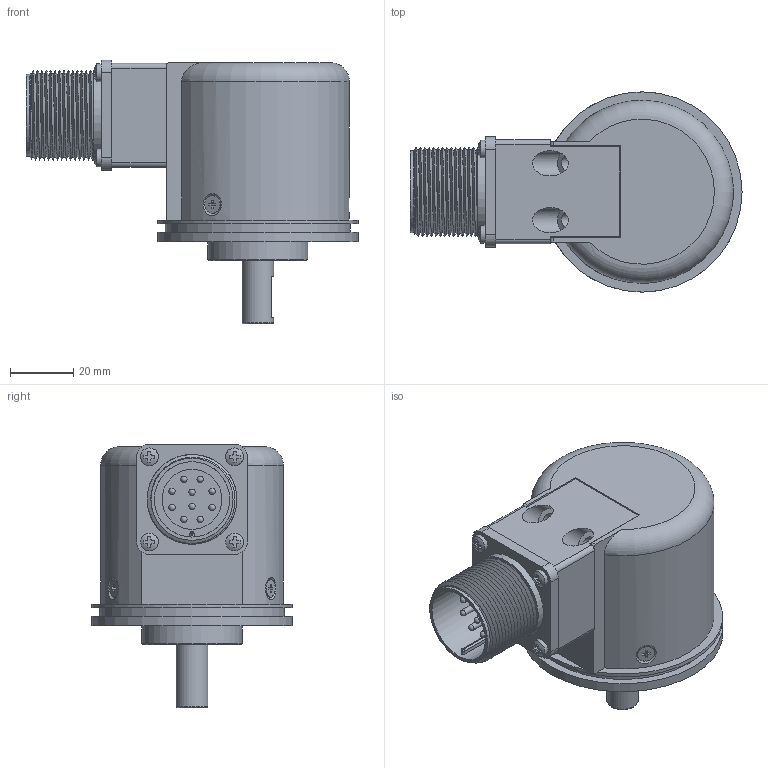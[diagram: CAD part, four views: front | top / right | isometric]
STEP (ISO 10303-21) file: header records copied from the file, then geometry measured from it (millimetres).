
FILE_DESCRIPTION( ( 'Unknown' ), '1' );
FILE_NAME( 'C:/Users/malfermoa/Desktop/step/EL_63A_albero 10 X uscita MR.stp', 'Unknown', ( 'Unknown' ), ( 'Unknown' ), 'PSStep 15.0.49', 'Unknown', ' ' );
FILE_SCHEMA( ( 'AUTOMOTIVE_DESIGN { 1 0 10303 214 1 1 1 1 }' ) );
Length unit declared in the file: millimetre
Products named in the file (1): 41320317F1
Bounding box: 105.25 x 63.5 x 83.6 mm (x, y, z)
Volume: 98951.8 mm3; surface area: 60426.1 mm2
Topology: 1 solids, 7 shells, 660 faces, 1727 edges, 1121 vertices
Faces by surface type: plane 278, cylinder 236, bspline 63, torus 40, cone 31, sphere 12
Full cylindrical faces by diameter (mm): 2 x22, 2.05 x2, 2.2 x12, 2.5 x10, 2.6 x10, 3 x4, 3.5 x3, 4.2 x3, 4.5 x2, 5.6 x7, 6 x1, 7 x1, 8 x2, 10 x10, 10.5 x1, 11 x1, 12 x1, 13.8 x1, 19 x1, 20 x1, 22 x2, 23 x1, 23.9 x1, 25.2 x1, 26 x26, 28.4 x1, 31.75 x1, 49.6 x1, 53.8 x2, 54 x1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
Entity records: 39717 total; most frequent: CARTESIAN_POINT 21259, ORIENTED_EDGE 2704, DIRECTION 2626, EDGE_CURVE 1352, AXIS2_PLACEMENT_3D 1020, VERTEX_POINT 951, EDGE_LOOP 846, FACE_OUTER_BOUND 729
